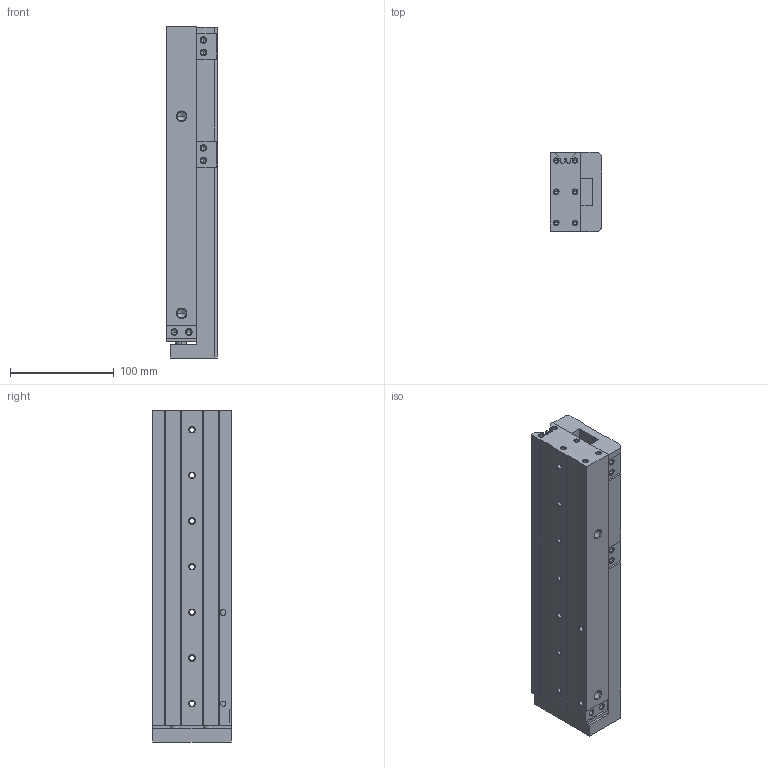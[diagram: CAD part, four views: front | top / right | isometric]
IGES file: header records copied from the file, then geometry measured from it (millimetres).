
Global section: file name: No Iges File Name specified; native system: Autodesk Inventor 2011; preprocessor: AutoDesk Inventor Iges Exporter R2011; author: airolcr1; date: 20110310.120022; units: millimetre
Bounding box: 50 x 76 x 320 mm (x, y, z)
Volume: 1097338.3 mm3; surface area: 187759 mm2
Topology: 2 solids, 2 shells, 306 faces, 760 edges, 446 vertices
Faces by surface type: bspline 208, plane 82, revolution 12, cylinder 4
